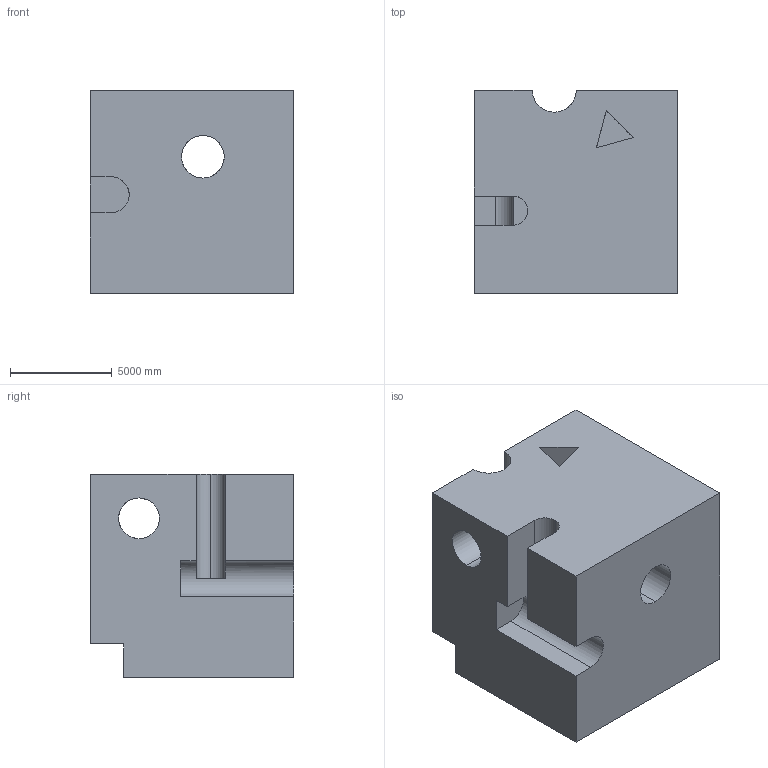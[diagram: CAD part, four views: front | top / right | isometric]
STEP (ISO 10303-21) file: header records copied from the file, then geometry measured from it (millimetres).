
FILE_DESCRIPTION (( 'STEP AP203' ), '1' );
FILE_NAME ('775.STEP', '2022-07-29T13:07:30', ( 'user' ), ( '' ), 'SwSTEP 2.0', 'SolidWorks 2021', '' );
FILE_SCHEMA (( 'CONFIG_CONTROL_DESIGN' ));
Length unit declared in the file: centimetre
Products named in the file (1): 775
Bounding box: 10000 x 10000 x 10000 mm (x, y, z)
Volume: 833292660532.3 mm3; surface area: 784959137.7 mm2
Topology: 1 solids, 1 shells, 36 faces, 117 edges, 78 vertices
Faces by surface type: plane 26, cylinder 10
Entity records: 1862 total; most frequent: CARTESIAN_POINT 764, ORIENTED_EDGE 234, DIRECTION 194, EDGE_CURVE 117, VERTEX_POINT 78, VECTOR 78, LINE 78, AXIS2_PLACEMENT_3D 58
